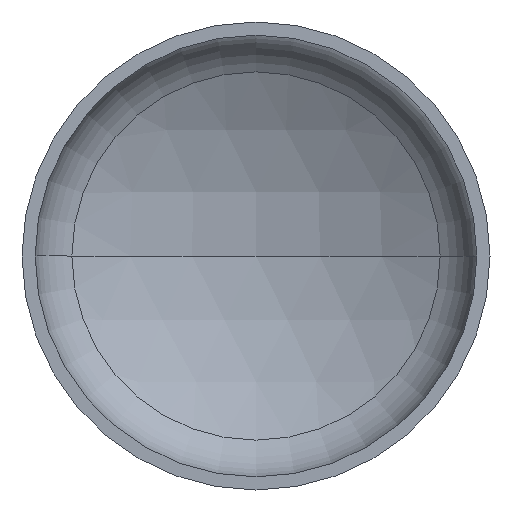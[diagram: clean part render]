
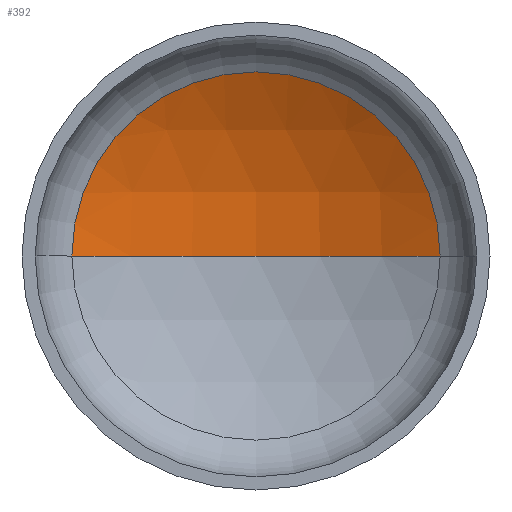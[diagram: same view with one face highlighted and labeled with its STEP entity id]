
A CAD part, front view. The second image highlights one B-rep face of the part: STEP entity #392.
In plain terms, the highlighted spherical face has radius 284 mm.
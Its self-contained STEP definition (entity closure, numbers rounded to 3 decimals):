
#1 = AXIS2_PLACEMENT_3D ( 'NONE', #114, #88, #119 ) ;
#26 = DIRECTION ( 'NONE',  ( 1., 0., 0. ) ) ;
#32 = VERTEX_POINT ( 'NONE', #348 ) ;
#40 = EDGE_LOOP ( 'NONE', ( #126, #101, #270 ) ) ;
#64 = AXIS2_PLACEMENT_3D ( 'NONE', #330, #264, #26 ) ;
#65 = AXIS2_PLACEMENT_3D ( 'NONE', #246, #245, #140 ) ;
#71 = AXIS2_PLACEMENT_3D ( 'NONE', #261, #280, #278 ) ;
#74 = CIRCLE ( 'NONE', #64, 284. ) ;
#86 = VERTEX_POINT ( 'NONE', #316 ) ;
#88 = DIRECTION ( 'NONE',  ( 0., 0., -1. ) ) ;
#101 = ORIENTED_EDGE ( 'NONE', *, *, #206, .T. ) ;
#114 = CARTESIAN_POINT ( 'NONE',  ( 0., -169.292, 0. ) ) ;
#119 = DIRECTION ( 'NONE',  ( -1., 0., 0. ) ) ;
#126 = ORIENTED_EDGE ( 'NONE', *, *, #210, .F. ) ;
#140 = DIRECTION ( 'NONE',  ( -1., 0., 0. ) ) ;
#176 = VERTEX_POINT ( 'NONE', #308 ) ;
#200 = EDGE_CURVE ( 'NONE', #32, #86, #281, .T. ) ;
#206 = EDGE_CURVE ( 'NONE', #176, #32, #344, .T. ) ;
#210 = EDGE_CURVE ( 'NONE', #176, #86, #74, .T. ) ;
#245 = DIRECTION ( 'NONE',  ( 0., 0., -1. ) ) ;
#246 = CARTESIAN_POINT ( 'NONE',  ( 0., -169.292, 0. ) ) ;
#248 = FACE_OUTER_BOUND ( 'NONE', #40, .T. ) ;
#261 = CARTESIAN_POINT ( 'NONE',  ( 0., 77.865, 0. ) ) ;
#264 = DIRECTION ( 'NONE',  ( 0., 0., 1. ) ) ;
#270 = ORIENTED_EDGE ( 'NONE', *, *, #200, .T. ) ;
#278 = DIRECTION ( 'NONE',  ( 1., 0., 0. ) ) ;
#280 = DIRECTION ( 'NONE',  ( 0., -1., 0. ) ) ;
#281 = CIRCLE ( 'NONE', #71, 139.892 ) ;
#308 = CARTESIAN_POINT ( 'NONE',  ( 0., 114.708, 0. ) ) ;
#316 = CARTESIAN_POINT ( 'NONE',  ( -139.892, 77.865, 0. ) ) ;
#330 = CARTESIAN_POINT ( 'NONE',  ( 0., -169.292, 0. ) ) ;
#344 = CIRCLE ( 'NONE', #65, 284. ) ;
#348 = CARTESIAN_POINT ( 'NONE',  ( 139.892, 77.865, 0. ) ) ;
#392 = ADVANCED_FACE ( 'NONE', ( #248 ), #410, .F. ) ;
#410 = SPHERICAL_SURFACE ( 'NONE', #1, 284. ) ;
